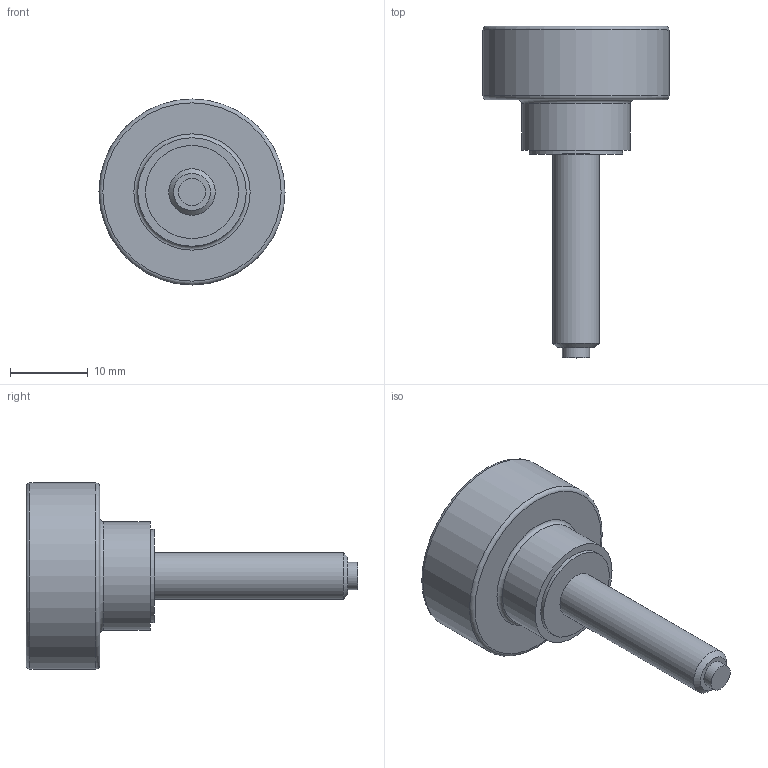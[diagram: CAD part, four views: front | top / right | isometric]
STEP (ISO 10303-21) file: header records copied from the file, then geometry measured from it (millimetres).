
FILE_DESCRIPTION( ( 'STEP AP203' ), '1' );
FILE_NAME( 'C:/Temp/Ganter_Step_05_03_2020/data/2_2/gn_421_10/Hollow knurled knob, with tip GN 421.10-M6-25-KU.stp', '2020-03-05T12:25:33', ( 'License CC BY-ND 4.0' ), ( 'CADENAS' ), ' ', 'PARTsolutions', ' ' );
FILE_SCHEMA( ( 'CONFIG_CONTROL_DESIGN' ) );
Length unit declared in the file: millimetre
Products named in the file (1): _Hollow knurled knob, with tip GN 421.10-M6-25-KU
Bounding box: 24 x 42.8 x 24 mm (x, y, z)
Volume: 4200 mm3; surface area: 2809.8 mm2
Topology: 1 solids, 1 shells, 19 faces, 30 edges, 19 vertices
Faces by surface type: plane 8, cylinder 7, torus 3, cone 1
Full cylindrical faces by diameter (mm): 3.5 x1, 6 x1, 10 x1, 12 x1, 14 x1, 20 x1, 24 x1
Entity records: 418 total; most frequent: DIRECTION 76, CARTESIAN_POINT 56, AXIS2_PLACEMENT_3D 38, EDGE_LOOP 36, ORIENTED_EDGE 36, FACE_OUTER_BOUND 29, ADVANCED_FACE 19, EDGE_CURVE 18
